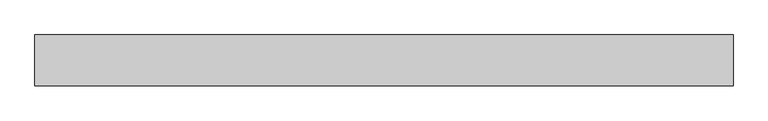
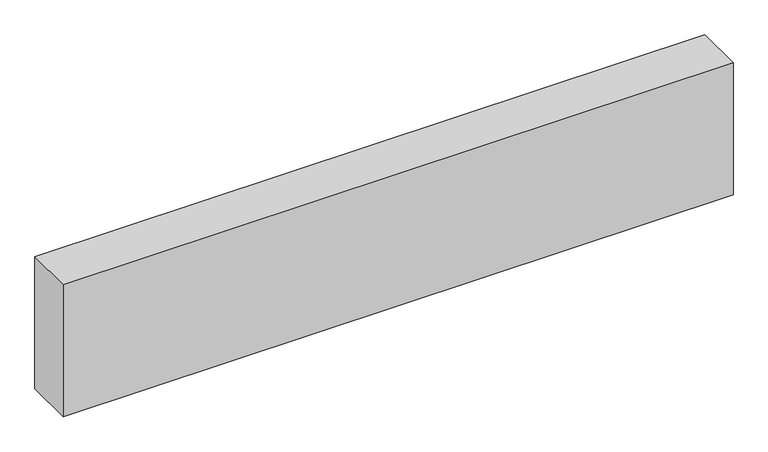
"""IFC4 building model written with IfcOpenShell, lengths in millimetres: proxy geometry."""

from ifc_helpers import new_model, si_unit, frame, origin, place, context, project, spatial, polyline, outline, extrude, source, transform, mapped, element, save


def structural_framing_2f219649(model_context):
    return source(origin(), model_context, "Body", "SweptSolid", [
        extrude(outline(polyline([(-959.8, -70.0), (-959.8, 70.0), (959.8, 70.0), (959.8, -70.0), (-959.8, -70.0)])), frame((0.0, 0.0, -400.0), z_axis=(0.0, 0.0, 1.0), x_axis=(1.0, 0.0, 0.0)), (0.0, 0.0, 1.0), 400.0),
    ])


if __name__ == "__main__":
    model = new_model("IFC4")
    model_context = context("Model", 3, world=origin())
    ifc_project = project(units=[si_unit("LENGTHUNIT", "METRE", prefix="MILLI")], contexts=[model_context])
    site = spatial("IfcSite", under=ifc_project)
    building = spatial("IfcBuilding", under=site)
    placement = place(None, origin())
    structural_framing_shape = structural_framing_2f219649(model_context)
    element("IfcBuildingElementProxy", 1, Name="Structural Framing", at=placement, inside=building, context=model_context, shape_type="MappedRepresentation", body=[
        mapped(structural_framing_shape, transform((0.0, 0.0, 0.0), x_axis=(1.0, 0.0, 0.0), y_axis=(0.0, 1.0, 0.0), z_axis=(0.0, 0.0, 1.0))),
    ])
    save(model, "model.ifc")
